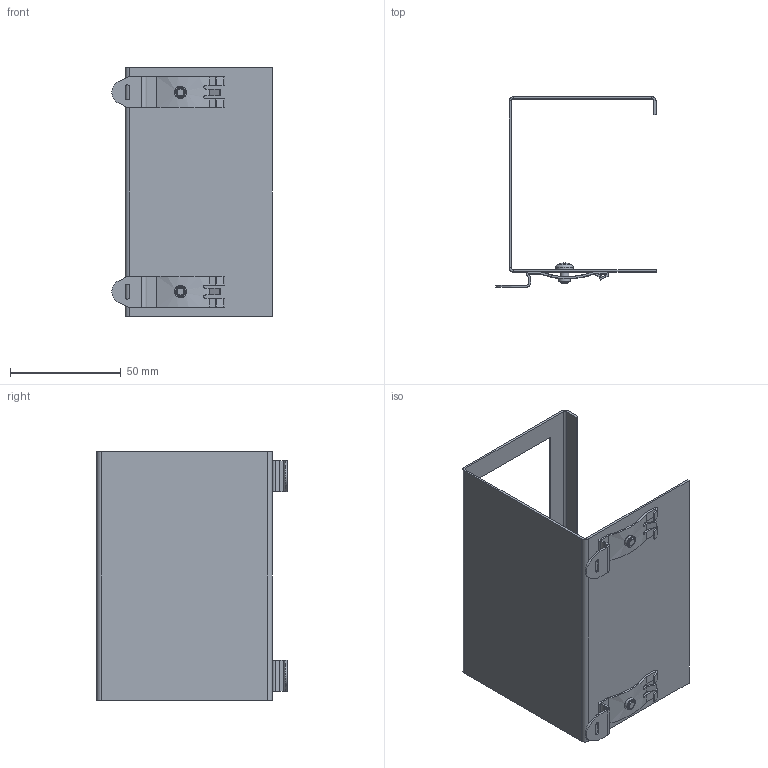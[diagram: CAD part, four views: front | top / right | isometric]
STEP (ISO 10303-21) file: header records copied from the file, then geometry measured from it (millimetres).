
FILE_DESCRIPTION(/* description */ (''),/* implementation_level */ '2;1');
FILE_NAME(/* name */ '1300.50.004.stp',/* time_stamp */ '2026-05-11T10:08:35+02:00',/* author */ ('ut3'),/* organization */ (''),/* preprocessor_version */ 'ST-DEVELOPER v20.1',/* originating_system */ 'Autodesk Inventor 2026',/* authorisation */ '');
FILE_SCHEMA (('AUTOMOTIVE_DESIGN { 1 0 10303 214 3 1 1 }'));
Length unit declared in the file: millimetre
Products named in the file (4): 1300.50.004; 1300.20.260; ISO 7045 - M4 x 6 - 4.8 - H; dn-clip-fm4
Assembly tree (5 placements, depth 2):
  1300.50.004
    1300.20.260
    ISO 7045 - M4 x 6 - 4.8 - H  x2
    dn-clip-fm4  x2
Bounding box: 72.4 x 86.05 x 112 mm (x, y, z)
Volume: 21497.1 mm3; surface area: 44552.9 mm2
Topology: 5 solids, 5 shells, 222 faces, 598 edges, 392 vertices
Faces by surface type: plane 114, cylinder 66, cone 24, torus 12, bspline 4, sphere 2
Full cylindrical faces by diameter (mm): 3.621 x2, 4 x2, 4.35 x2, 4.5 x2, 5.419 x2
Entity records: 5087 total; most frequent: CARTESIAN_POINT 1718, DIRECTION 678, ORIENTED_EDGE 674, EDGE_CURVE 337, AXIS2_PLACEMENT_3D 244, VERTEX_POINT 218, LINE 190, VECTOR 190
